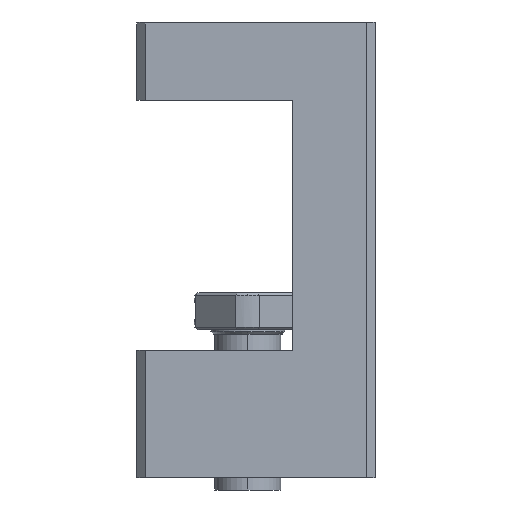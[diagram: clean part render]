
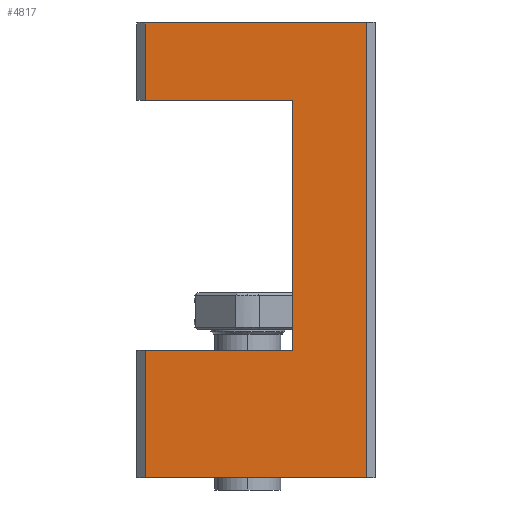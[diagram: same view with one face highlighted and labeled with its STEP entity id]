
A CAD part, left-side view. The second image highlights one B-rep face of the part: STEP entity #4817.
In plain terms, the highlighted planar face has unit normal (-1, 0, 0).
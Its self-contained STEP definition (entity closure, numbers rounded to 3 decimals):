
#1 = ORIENTED_EDGE ( 'NONE', *, *, #2283, .T. ) ;
#3 = ORIENTED_EDGE ( 'NONE', *, *, #3962, .T. ) ;
#9 = VERTEX_POINT ( 'NONE', #2798 ) ;
#46 = VECTOR ( 'NONE', #1811, 1000. ) ;
#155 = DIRECTION ( 'NONE',  ( 0., 0., 1. ) ) ;
#265 = ORIENTED_EDGE ( 'NONE', *, *, #552, .F. ) ;
#552 = EDGE_CURVE ( 'NONE', #9, #5305, #1799, .T. ) ;
#604 = ORIENTED_EDGE ( 'NONE', *, *, #2976, .T. ) ;
#620 = CARTESIAN_POINT ( 'NONE',  ( -17., -5.5, 46. ) ) ;
#648 = VERTEX_POINT ( 'NONE', #3240 ) ;
#746 = EDGE_CURVE ( 'NONE', #3311, #2708, #4255, .T. ) ;
#870 = DIRECTION ( 'NONE',  ( 0., 0., 1. ) ) ;
#937 = EDGE_LOOP ( 'NONE', ( #3062, #604, #5493, #3720, #5121, #265, #1, #3 ) ) ;
#960 = CARTESIAN_POINT ( 'NONE',  ( -17., -5.5, 55.5 ) ) ;
#1095 = EDGE_CURVE ( 'NONE', #2428, #5305, #2463, .T. ) ;
#1125 = DIRECTION ( 'NONE',  ( 0., -1., 0. ) ) ;
#1209 = CARTESIAN_POINT ( 'NONE',  ( -17., 13.5, 55.5 ) ) ;
#1372 = LINE ( 'NONE', #2776, #46 ) ;
#1693 = LINE ( 'NONE', #2927, #1788 ) ;
#1746 = CARTESIAN_POINT ( 'NONE',  ( -17., 12.5, 55.5 ) ) ;
#1788 = VECTOR ( 'NONE', #4252, 1000. ) ;
#1799 = LINE ( 'NONE', #960, #3354 ) ;
#1811 = DIRECTION ( 'NONE',  ( 0., 0., -1. ) ) ;
#1873 = PLANE ( 'NONE',  #5234 ) ;
#2077 = VECTOR ( 'NONE', #1125, 1000. ) ;
#2283 = EDGE_CURVE ( 'NONE', #9, #2338, #1693, .T. ) ;
#2316 = FACE_OUTER_BOUND ( 'NONE', #937, .T. ) ;
#2338 = VERTEX_POINT ( 'NONE', #3375 ) ;
#2342 = CARTESIAN_POINT ( 'NONE',  ( -17., 12.5, 0. ) ) ;
#2428 = VERTEX_POINT ( 'NONE', #5277 ) ;
#2463 = LINE ( 'NONE', #3319, #2077 ) ;
#2539 = VERTEX_POINT ( 'NONE', #2342 ) ;
#2708 = VERTEX_POINT ( 'NONE', #4638 ) ;
#2725 = DIRECTION ( 'NONE',  ( 1., 0., 0. ) ) ;
#2776 = CARTESIAN_POINT ( 'NONE',  ( -17., 12.5, 55.5 ) ) ;
#2798 = CARTESIAN_POINT ( 'NONE',  ( -17., -5.5, 15.5 ) ) ;
#2927 = CARTESIAN_POINT ( 'NONE',  ( -17., 13.5, 15.5 ) ) ;
#2934 = VECTOR ( 'NONE', #3429, 1000. ) ;
#2976 = EDGE_CURVE ( 'NONE', #648, #2708, #3637, .T. ) ;
#3062 = ORIENTED_EDGE ( 'NONE', *, *, #5079, .T. ) ;
#3240 = CARTESIAN_POINT ( 'NONE',  ( -17., -14.5, 0. ) ) ;
#3311 = VERTEX_POINT ( 'NONE', #3538 ) ;
#3319 = CARTESIAN_POINT ( 'NONE',  ( -17., 13.5, 46. ) ) ;
#3354 = VECTOR ( 'NONE', #870, 1000. ) ;
#3375 = CARTESIAN_POINT ( 'NONE',  ( -17., 12.5, 15.5 ) ) ;
#3429 = DIRECTION ( 'NONE',  ( 0., 0., -1. ) ) ;
#3538 = CARTESIAN_POINT ( 'NONE',  ( -17., 12.5, 55.5 ) ) ;
#3637 = LINE ( 'NONE', #4099, #5379 ) ;
#3720 = ORIENTED_EDGE ( 'NONE', *, *, #3738, .T. ) ;
#3738 = EDGE_CURVE ( 'NONE', #3311, #2428, #4783, .T. ) ;
#3962 = EDGE_CURVE ( 'NONE', #2338, #2539, #1372, .T. ) ;
#4099 = CARTESIAN_POINT ( 'NONE',  ( -17., -14.5, 55.5 ) ) ;
#4252 = DIRECTION ( 'NONE',  ( 0., 1., 0. ) ) ;
#4255 = LINE ( 'NONE', #1209, #5107 ) ;
#4399 = VECTOR ( 'NONE', #5180, 1000. ) ;
#4478 = DIRECTION ( 'NONE',  ( 0., 0., -1. ) ) ;
#4638 = CARTESIAN_POINT ( 'NONE',  ( -17., -14.5, 55.5 ) ) ;
#4729 = DIRECTION ( 'NONE',  ( 0., -1., 0. ) ) ;
#4783 = LINE ( 'NONE', #1746, #2934 ) ;
#4806 = LINE ( 'NONE', #4837, #4399 ) ;
#4817 = ADVANCED_FACE ( 'NONE', ( #2316 ), #1873, .F. ) ;
#4837 = CARTESIAN_POINT ( 'NONE',  ( -17., 13.5, 0. ) ) ;
#5079 = EDGE_CURVE ( 'NONE', #2539, #648, #4806, .T. ) ;
#5107 = VECTOR ( 'NONE', #4729, 1000. ) ;
#5121 = ORIENTED_EDGE ( 'NONE', *, *, #1095, .T. ) ;
#5180 = DIRECTION ( 'NONE',  ( 0., -1., 0. ) ) ;
#5234 = AXIS2_PLACEMENT_3D ( 'NONE', #5459, #2725, #4478 ) ;
#5277 = CARTESIAN_POINT ( 'NONE',  ( -17., 12.5, 46. ) ) ;
#5305 = VERTEX_POINT ( 'NONE', #620 ) ;
#5379 = VECTOR ( 'NONE', #155, 1000. ) ;
#5459 = CARTESIAN_POINT ( 'NONE',  ( -17., 13.5, 55.5 ) ) ;
#5493 = ORIENTED_EDGE ( 'NONE', *, *, #746, .F. ) ;
